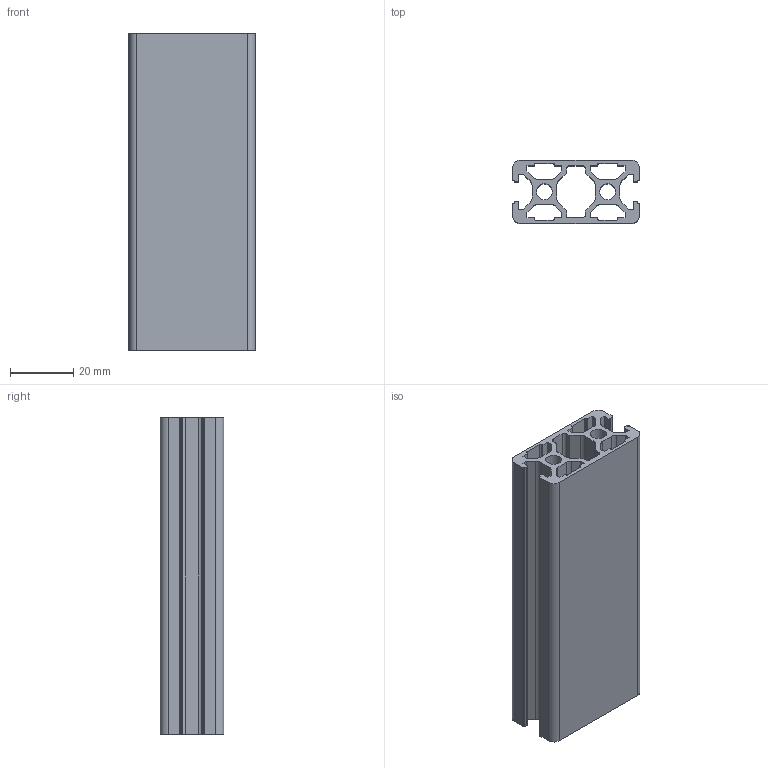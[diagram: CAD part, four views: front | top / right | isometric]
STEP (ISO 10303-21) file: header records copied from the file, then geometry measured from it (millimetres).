
FILE_DESCRIPTION((''),'2;1');
FILE_NAME('E:\catalogue and flyer\Profile catalogue 2015\profile-step file,31MAr16\PS2040-6 4N.stp','2016-03-31T13:45:48',('h029'),(''),'Autodesk Inventor 11','Autodesk Inventor 11','');
FILE_SCHEMA(('AUTOMOTIVE_DESIGN { 1 0 10303 214 1 1 1 1 }'));
Length unit declared in the file: millimetre
Products named in the file (1): ps2040-6 4N
Bounding box: 40 x 20 x 100 mm (x, y, z)
Volume: 31988.7 mm3; surface area: 35061.9 mm2
Topology: 1 solids, 1 shells, 144 faces, 426 edges, 284 vertices
Faces by surface type: plane 86, cylinder 58
Full cylindrical faces by diameter (mm): 5 x2
Entity records: 4867 total; most frequent: CARTESIAN_POINT 853, ORIENTED_EDGE 848, DIRECTION 830, EDGE_CURVE 424, VECTOR 308, LINE 308, VERTEX_POINT 284, AXIS2_PLACEMENT_3D 261
